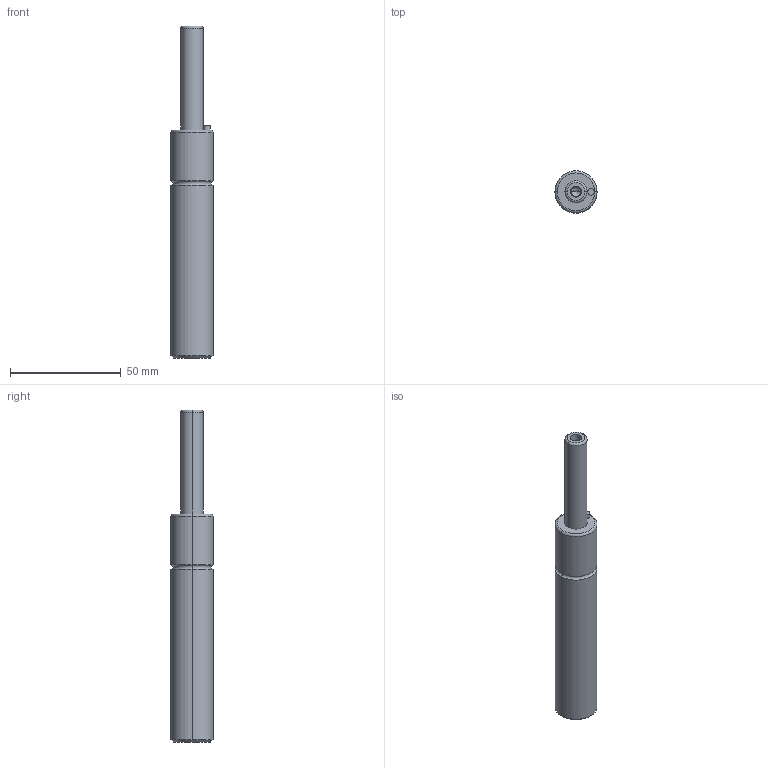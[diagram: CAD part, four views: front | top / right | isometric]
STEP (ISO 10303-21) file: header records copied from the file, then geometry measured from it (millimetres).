
FILE_DESCRIPTION(/* description */ (''),/* implementation_level */ '2;1');
FILE_NAME(/* name */ '3d_gsm19-45_03896_r00.stp',/* time_stamp */ '2011-01-10T14:15:17+09:00',/* author */ ('MISUMI'),/* organization */ (''),/* preprocessor_version */ 'ST-DEVELOPER v11',/* originating_system */ 'UGS - NX 5.0',/* authorisation */ '');
FILE_SCHEMA (('CONFIG_CONTROL_DESIGN'));
Length unit declared in the file: millimetre
Products named in the file (1): 3d_gsm19-45_03896_r00
Bounding box: 19 x 19 x 150 mm (x, y, z)
Volume: 32331.2 mm3; surface area: 8508.5 mm2
Topology: 1 solids, 1 shells, 34 faces, 70 edges, 40 vertices
Faces by surface type: cylinder 16, cone 6, plane 6, torus 6
Entity records: 964 total; most frequent: DIRECTION 180, CARTESIAN_POINT 141, ORIENTED_EDGE 132, AXIS2_PLACEMENT_3D 79, EDGE_CURVE 66, CIRCLE 44, EDGE_LOOP 40, VERTEX_POINT 40
